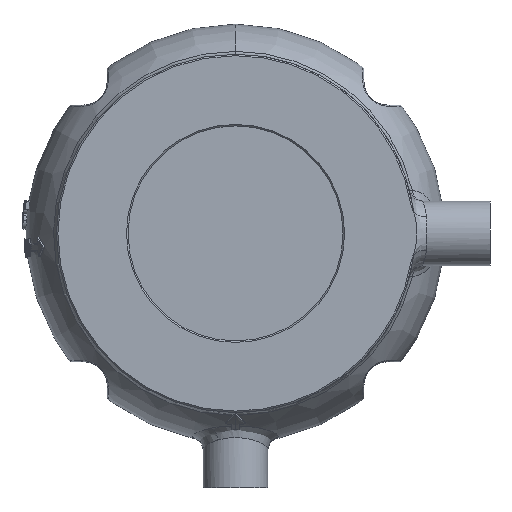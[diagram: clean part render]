
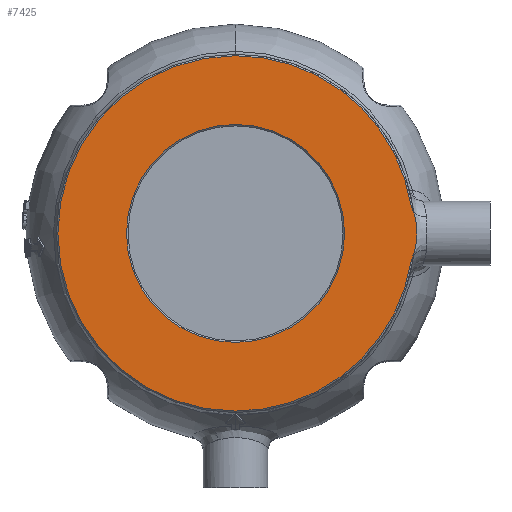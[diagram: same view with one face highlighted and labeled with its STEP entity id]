
A CAD part, front view. The second image highlights one B-rep face of the part: STEP entity #7425.
In plain terms, the highlighted planar face has unit normal (0, -1, 0).
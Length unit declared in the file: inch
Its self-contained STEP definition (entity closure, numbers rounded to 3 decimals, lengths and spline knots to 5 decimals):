
#457 = VERTEX_POINT ( 'NONE', #5297 ) ;
#591 = CIRCLE ( 'NONE', #23822, 2.479 ) ;
#665 = DIRECTION ( 'NONE',  ( 0., 1., 0. ) ) ;
#749 = EDGE_LOOP ( 'NONE', ( #1386, #24528, #21491, #24680, #9714, #18096, #22035, #6540 ) ) ;
#792 = CARTESIAN_POINT ( 'NONE',  ( 2.4986, -1.764, -0.2523 ) ) ;
#989 = VERTEX_POINT ( 'NONE', #13952 ) ;
#1091 = PLANE ( 'NONE',  #19990 ) ;
#1386 = ORIENTED_EDGE ( 'NONE', *, *, #11298, .F. ) ;
#1425 = CARTESIAN_POINT ( 'NONE',  ( -2.625, -1.764, 0. ) ) ;
#1501 = DIRECTION ( 'NONE',  ( 0., -1., 0. ) ) ;
#1537 = DIRECTION ( 'NONE',  ( 0., 0., -1. ) ) ;
#1732 = CARTESIAN_POINT ( 'NONE',  ( 2.48343, -1.764, 0.2858 ) ) ;
#1804 = CARTESIAN_POINT ( 'NONE',  ( -1.521, -1.764, 0. ) ) ;
#2063 = CARTESIAN_POINT ( 'NONE',  ( 2.48877, -1.764, 0.27476 ) ) ;
#2108 = VERTEX_POINT ( 'NONE', #11624 ) ;
#2357 = EDGE_CURVE ( 'NONE', #457, #23273, #3443, .T. ) ;
#2924 = ORIENTED_EDGE ( 'NONE', *, *, #12408, .T. ) ;
#3016 = EDGE_CURVE ( 'NONE', #12160, #2108, #591, .T. ) ;
#3443 = B_SPLINE_CURVE_WITH_KNOTS ( 'NONE', 3,
 ( #11116, #12868, #11095, #14217 ),
 .UNSPECIFIED., .F., .F.,
 ( 4, 4 ),
 ( 0., 0.00272 ),
 .UNSPECIFIED. ) ;
#3450 = DIRECTION ( 'NONE',  ( 0., 0., -1. ) ) ;
#4105 = CARTESIAN_POINT ( 'NONE',  ( 0., -1.764, -2.479 ) ) ;
#4108 = EDGE_CURVE ( 'NONE', #6210, #457, #10280, .T. ) ;
#4746 = CARTESIAN_POINT ( 'NONE',  ( 2.44861, -1.764, -0.38698 ) ) ;
#4766 = DIRECTION ( 'NONE',  ( 0., 0., -1. ) ) ;
#4867 = DIRECTION ( 'NONE',  ( 0., 1., 0. ) ) ;
#4897 = CARTESIAN_POINT ( 'NONE',  ( 0., -1.764, 0. ) ) ;
#4980 = CARTESIAN_POINT ( 'NONE',  ( 2.48876, -1.764, -0.27476 ) ) ;
#5272 = CARTESIAN_POINT ( 'NONE',  ( 0., -1.764, 0. ) ) ;
#5297 = CARTESIAN_POINT ( 'NONE',  ( 2.48343, -1.764, -0.2858 ) ) ;
#5403 = CARTESIAN_POINT ( 'NONE',  ( 2.44861, -1.764, 0.38698 ) ) ;
#5568 = CARTESIAN_POINT ( 'NONE',  ( 2.46949, -1.764, 0.31868 ) ) ;
#5650 = CARTESIAN_POINT ( 'NONE',  ( 2.48343, -1.764, 0.2858 ) ) ;
#5687 = CARTESIAN_POINT ( 'NONE',  ( 2.45724, -1.764, 0.35232 ) ) ;
#6210 = VERTEX_POINT ( 'NONE', #16756 ) ;
#6483 = CIRCLE ( 'NONE', #14737, 1.521 ) ;
#6540 = ORIENTED_EDGE ( 'NONE', *, *, #3016, .F. ) ;
#7377 = CARTESIAN_POINT ( 'NONE',  ( 2.4986, -1.764, 0.25228 ) ) ;
#7425 = ADVANCED_FACE ( 'NONE', ( #12982, #8033 ), #1091, .T. ) ;
#7660 = CARTESIAN_POINT ( 'NONE',  ( 1.521, -1.764, 0. ) ) ;
#7695 = B_SPLINE_CURVE_WITH_KNOTS ( 'NONE', 3,
 ( #5403, #5687, #5568, #5650 ),
 .UNSPECIFIED., .F., .F.,
 ( 4, 4 ),
 ( 0., 0.00272 ),
 .UNSPECIFIED. ) ;
#7741 = EDGE_CURVE ( 'NONE', #18903, #24481, #15592, .T. ) ;
#8033 = FACE_BOUND ( 'NONE', #11013, .T. ) ;
#8046 = CARTESIAN_POINT ( 'NONE',  ( 2.52512, -1.764, -0.10562 ) ) ;
#8125 = CIRCLE ( 'NONE', #17204, 2.479 ) ;
#8144 = EDGE_CURVE ( 'NONE', #2108, #989, #22399, .T. ) ;
#8500 = CARTESIAN_POINT ( 'NONE',  ( 2.48343, -1.764, 0.2858 ) ) ;
#8973 = CARTESIAN_POINT ( 'NONE',  ( 2.49383, -1.764, -0.2636 ) ) ;
#9264 = CARTESIAN_POINT ( 'NONE',  ( 2.4986, -1.764, 0.25228 ) ) ;
#9277 = B_SPLINE_CURVE_WITH_KNOTS ( 'NONE', 3,
 ( #792, #13146, #23969, #8046, #19738, #20183, #20627, #22125, #21610, #14581, #15291, #16848 ),
 .UNSPECIFIED., .F., .F.,
 ( 4, 2, 2, 2, 2, 4 ),
 ( 0.00103, 0.00428, 0.0059, 0.00752, 0.01077, 0.01401 ),
 .UNSPECIFIED. ) ;
#9714 = ORIENTED_EDGE ( 'NONE', *, *, #7741, .F. ) ;
#10280 = B_SPLINE_CURVE_WITH_KNOTS ( 'NONE', 3,
 ( #10988, #8973, #4980, #22854 ),
 .UNSPECIFIED., .F., .F.,
 ( 4, 4 ),
 ( 0., 0.00093 ),
 .UNSPECIFIED. ) ;
#10988 = CARTESIAN_POINT ( 'NONE',  ( 2.4986, -1.764, -0.2523 ) ) ;
#11013 = EDGE_LOOP ( 'NONE', ( #2924, #22188 ) ) ;
#11095 = CARTESIAN_POINT ( 'NONE',  ( 2.45724, -1.764, -0.35233 ) ) ;
#11116 = CARTESIAN_POINT ( 'NONE',  ( 2.48343, -1.764, -0.2858 ) ) ;
#11298 = EDGE_CURVE ( 'NONE', #23273, #12160, #8125, .T. ) ;
#11624 = CARTESIAN_POINT ( 'NONE',  ( 0., -1.764, 2.479 ) ) ;
#11962 = EDGE_CURVE ( 'NONE', #989, #18903, #7695, .T. ) ;
#12160 = VERTEX_POINT ( 'NONE', #4105 ) ;
#12408 = EDGE_CURVE ( 'NONE', #16038, #22586, #18747, .T. ) ;
#12803 = DIRECTION ( 'NONE',  ( 0., 1., 0. ) ) ;
#12830 = DIRECTION ( 'NONE',  ( 0., 0., -1. ) ) ;
#12868 = CARTESIAN_POINT ( 'NONE',  ( 2.46949, -1.764, -0.31868 ) ) ;
#12982 = FACE_OUTER_BOUND ( 'NONE', #749, .T. ) ;
#13146 = CARTESIAN_POINT ( 'NONE',  ( 2.50828, -1.764, -0.21073 ) ) ;
#13938 = EDGE_CURVE ( 'NONE', #6210, #24481, #9277, .T. ) ;
#13952 = CARTESIAN_POINT ( 'NONE',  ( 2.44861, -1.764, 0.38698 ) ) ;
#14217 = CARTESIAN_POINT ( 'NONE',  ( 2.44861, -1.764, -0.38698 ) ) ;
#14459 = EDGE_CURVE ( 'NONE', #22586, #16038, #6483, .T. ) ;
#14581 = CARTESIAN_POINT ( 'NONE',  ( 2.51618, -1.764, 0.16935 ) ) ;
#14737 = AXIS2_PLACEMENT_3D ( 'NONE', #5272, #15468, #3450 ) ;
#15265 = DIRECTION ( 'NONE',  ( 0., 0., -1. ) ) ;
#15291 = CARTESIAN_POINT ( 'NONE',  ( 2.50823, -1.764, 0.21092 ) ) ;
#15464 = CARTESIAN_POINT ( 'NONE',  ( 0., -1.764, 0. ) ) ;
#15468 = DIRECTION ( 'NONE',  ( 0., 1., 0. ) ) ;
#15592 = B_SPLINE_CURVE_WITH_KNOTS ( 'NONE', 3,
 ( #1732, #2063, #21882, #9264 ),
 .UNSPECIFIED., .F., .F.,
 ( 4, 4 ),
 ( 0., 0.00093 ),
 .UNSPECIFIED. ) ;
#16038 = VERTEX_POINT ( 'NONE', #7660 ) ;
#16347 = AXIS2_PLACEMENT_3D ( 'NONE', #15464, #12803, #12830 ) ;
#16756 = CARTESIAN_POINT ( 'NONE',  ( 2.4986, -1.764, -0.2523 ) ) ;
#16848 = CARTESIAN_POINT ( 'NONE',  ( 2.4986, -1.764, 0.25228 ) ) ;
#17015 = CARTESIAN_POINT ( 'NONE',  ( 0., -1.764, 0. ) ) ;
#17204 = AXIS2_PLACEMENT_3D ( 'NONE', #21213, #21425, #21367 ) ;
#18096 = ORIENTED_EDGE ( 'NONE', *, *, #11962, .F. ) ;
#18747 = CIRCLE ( 'NONE', #16347, 1.521 ) ;
#18903 = VERTEX_POINT ( 'NONE', #8500 ) ;
#19571 = AXIS2_PLACEMENT_3D ( 'NONE', #4897, #4867, #4766 ) ;
#19738 = CARTESIAN_POINT ( 'NONE',  ( 2.52751, -1.764, -0.08443 ) ) ;
#19990 = AXIS2_PLACEMENT_3D ( 'NONE', #1425, #1501, #1537 ) ;
#20183 = CARTESIAN_POINT ( 'NONE',  ( 2.53078, -1.764, -0.04182 ) ) ;
#20627 = CARTESIAN_POINT ( 'NONE',  ( 2.53164, -1.764, -0.02035 ) ) ;
#21213 = CARTESIAN_POINT ( 'NONE',  ( 0., -1.764, 0. ) ) ;
#21367 = DIRECTION ( 'NONE',  ( 0., 0., -1. ) ) ;
#21425 = DIRECTION ( 'NONE',  ( 0., 1., 0. ) ) ;
#21491 = ORIENTED_EDGE ( 'NONE', *, *, #4108, .F. ) ;
#21610 = CARTESIAN_POINT ( 'NONE',  ( 2.52794, -1.764, 0.08567 ) ) ;
#21882 = CARTESIAN_POINT ( 'NONE',  ( 2.49383, -1.764, 0.2636 ) ) ;
#22035 = ORIENTED_EDGE ( 'NONE', *, *, #8144, .F. ) ;
#22125 = CARTESIAN_POINT ( 'NONE',  ( 2.53156, -1.764, 0.04354 ) ) ;
#22188 = ORIENTED_EDGE ( 'NONE', *, *, #14459, .T. ) ;
#22399 = CIRCLE ( 'NONE', #19571, 2.479 ) ;
#22586 = VERTEX_POINT ( 'NONE', #1804 ) ;
#22854 = CARTESIAN_POINT ( 'NONE',  ( 2.48343, -1.764, -0.2858 ) ) ;
#23273 = VERTEX_POINT ( 'NONE', #4746 ) ;
#23822 = AXIS2_PLACEMENT_3D ( 'NONE', #17015, #665, #15265 ) ;
#23969 = CARTESIAN_POINT ( 'NONE',  ( 2.51627, -1.764, -0.16889 ) ) ;
#24481 = VERTEX_POINT ( 'NONE', #7377 ) ;
#24528 = ORIENTED_EDGE ( 'NONE', *, *, #2357, .F. ) ;
#24680 = ORIENTED_EDGE ( 'NONE', *, *, #13938, .T. ) ;
